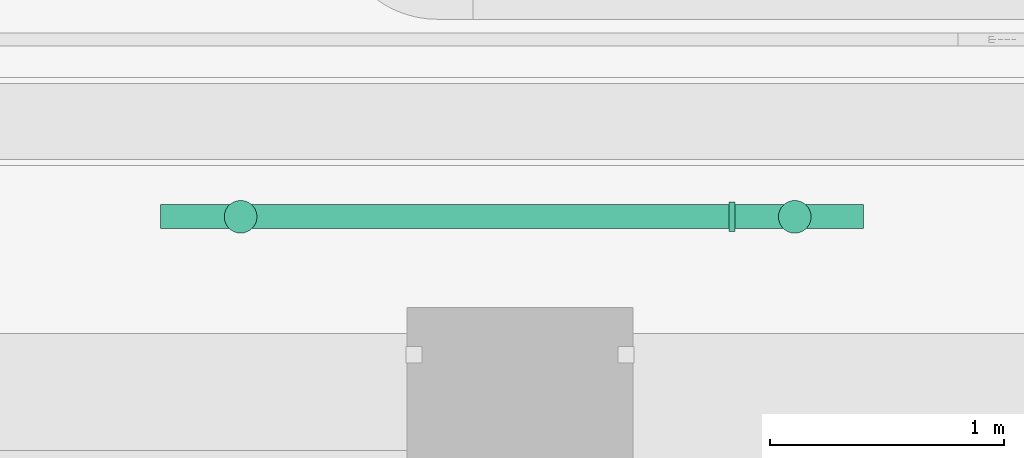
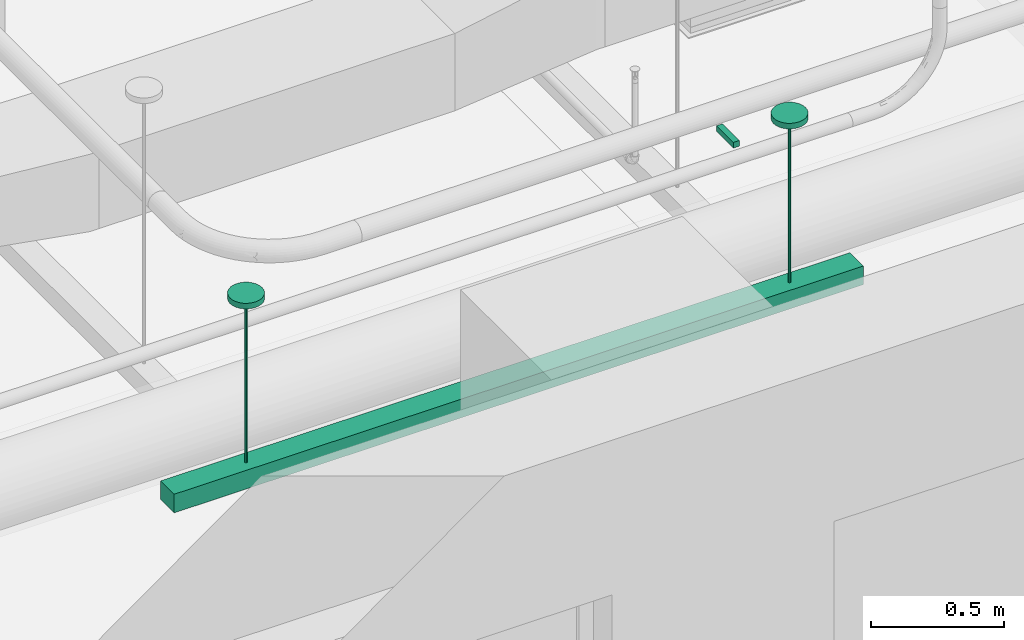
# One storey, part 102 of 108: 1 light fixture.
"""IFC4 building model written with IfcOpenShell, lengths in feet."""

from ifc_helpers import new_model, entity, si_unit, converted_unit, derived_unit, direction, frame, origin, place, context, subcontext, project, spatial, source, transform, mapped, material, type_object, type_shapes, element, save


model = new_model("IFC4")

# Units and contexts
model_context = context("Model", 3, precision=0.0001, world=origin(), true_north=direction((6.12303176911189e-17, 1.0)))
body_context = subcontext(model_context, "Body", "Model", "MODEL_VIEW")
ifc_project = project(units=[converted_unit("LENGTHUNIT", "FOOT", entity("IfcRatioMeasure", 0.3048), si_unit("LENGTHUNIT", "METRE"), dimensions=[1, 0, 0, 0, 0, 0, 0]), converted_unit("AREAUNIT", "SQUARE FOOT", entity("IfcRatioMeasure", 0.09290304), si_unit("AREAUNIT", "SQUARE_METRE"), dimensions=[2, 0, 0, 0, 0, 0, 0]), converted_unit("VOLUMEUNIT", "CUBIC FOOT", entity("IfcRatioMeasure", 0.028316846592), si_unit("VOLUMEUNIT", "CUBIC_METRE"), dimensions=[3, 0, 0, 0, 0, 0, 0]), converted_unit("PLANEANGLEUNIT", "DEGREE", entity("IfcRatioMeasure", 0.0174532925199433), si_unit("PLANEANGLEUNIT", "RADIAN"), dimensions=[0, 0, 0, 0, 0, 0, 0]), si_unit("MASSUNIT", "GRAM", prefix="KILO"), derived_unit("MASSDENSITYUNIT", [(si_unit("MASSUNIT", "GRAM", prefix="KILO"), 1), (si_unit("LENGTHUNIT", "METRE"), -3)]), si_unit("TIMEUNIT", "SECOND"), si_unit("FREQUENCYUNIT", "HERTZ"), si_unit("THERMODYNAMICTEMPERATUREUNIT", "DEGREE_CELSIUS"), derived_unit("THERMALTRANSMITTANCEUNIT", [(si_unit("MASSUNIT", "GRAM", prefix="KILO"), 1), (si_unit("THERMODYNAMICTEMPERATUREUNIT", "KELVIN"), -1), (si_unit("TIMEUNIT", "SECOND"), -3)]), derived_unit("VOLUMETRICFLOWRATEUNIT", [(si_unit("LENGTHUNIT", "METRE"), 3), (si_unit("TIMEUNIT", "SECOND"), -1)]), si_unit("ELECTRICCURRENTUNIT", "AMPERE"), si_unit("ELECTRICVOLTAGEUNIT", "VOLT"), si_unit("POWERUNIT", "WATT"), si_unit("FORCEUNIT", "NEWTON"), si_unit("ILLUMINANCEUNIT", "LUX"), si_unit("LUMINOUSFLUXUNIT", "LUMEN"), si_unit("LUMINOUSINTENSITYUNIT", "CANDELA"), derived_unit("USERDEFINED", [(si_unit("MASSUNIT", "GRAM", prefix="KILO"), -1), (si_unit("LENGTHUNIT", "METRE"), -2), (si_unit("TIMEUNIT", "SECOND"), 3), (si_unit("LUMINOUSFLUXUNIT", "LUMEN"), 1)]), derived_unit("LINEARVELOCITYUNIT", [(si_unit("LENGTHUNIT", "METRE"), 1), (si_unit("TIMEUNIT", "SECOND"), -1)]), si_unit("PRESSUREUNIT", "PASCAL"), derived_unit("USERDEFINED", [(si_unit("LENGTHUNIT", "METRE"), -2), (si_unit("MASSUNIT", "GRAM", prefix="KILO"), 1), (si_unit("TIMEUNIT", "SECOND"), -2)])], contexts=[model_context])

# Site, building, storey
site_placement = place(None, origin())
site = spatial("IfcSite", under=ifc_project, at=site_placement, Name="Default", CompositionType="ELEMENT")
building_placement = place(site_placement, origin())
building = spatial("IfcBuilding", under=site, at=building_placement, CompositionType="ELEMENT")
storey_placement = place(building_placement, frame((0.0, 0.0, 168.0)))
storey = spatial("IfcBuildingStorey", under=building, at=storey_placement, Name="Level 15", CompositionType="ELEMENT", Elevation=168.0)

# Light fixture
ifc_material = material(Name="Lighting Proxy", Category="System")
light_fixture_type = type_object("IfcLightFixtureType", Name="10", PredefinedType="NOTDEFINED", material=ifc_material)
cartesian_point_1 = entity("IfcCartesianPoint", [0.891666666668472, 0.234400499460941, 2.83292752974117])
vertex_point_1 = entity("IfcVertexPoint", cartesian_point_1)
cartesian_point_2 = entity("IfcCartesianPoint", [1.35000000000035, 0.23440049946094, 2.83292752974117])
vertex_point_2 = entity("IfcVertexPoint", cartesian_point_2)
cartesian_point_3 = entity("IfcCartesianPoint", [1.12083333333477, 0.23440049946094, 2.83292752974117])
ifc_direction_1 = entity("IfcDirection", [0.0, 0.0, -1.0])
ifc_direction_2 = entity("IfcDirection", [1.0, 0.0, 0.0])
edge_curve_1 = entity("IfcEdgeCurve", vertex_point_1, vertex_point_2, entity("IfcTrimmedCurve", entity("IfcCircle", entity("IfcAxis2Placement3D", cartesian_point_3, ifc_direction_1, ifc_direction_2), 0.22916666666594), [cartesian_point_1], [cartesian_point_2], True, "CARTESIAN"), True)
cartesian_point_4 = entity("IfcCartesianPoint", [1.35000000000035, 0.234400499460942, 2.7488633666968])
vertex_point_3 = entity("IfcVertexPoint", cartesian_point_4)
edge_curve_2 = entity("IfcEdgeCurve", vertex_point_2, vertex_point_3, entity("IfcTrimmedCurve", entity("IfcLine", cartesian_point_2, entity("IfcVector", ifc_direction_1, 1.0)), [cartesian_point_2], [cartesian_point_4], True, "CARTESIAN"), True)
cartesian_point_5 = entity("IfcCartesianPoint", [0.891666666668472, 0.234400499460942, 2.7488633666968])
vertex_point_4 = entity("IfcVertexPoint", cartesian_point_5)
cartesian_point_6 = entity("IfcCartesianPoint", [1.12083333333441, 0.234400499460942, 2.7488633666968])
ifc_direction_3 = entity("IfcDirection", [0.0, 0.0, 1.0])
edge_curve_3 = entity("IfcEdgeCurve", vertex_point_3, vertex_point_4, entity("IfcTrimmedCurve", entity("IfcCircle", entity("IfcAxis2Placement3D", cartesian_point_6, ifc_direction_3, ifc_direction_2), 0.22916666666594), [cartesian_point_4], [cartesian_point_5], True, "CARTESIAN"), True)
edge_curve_4 = entity("IfcEdgeCurve", vertex_point_4, vertex_point_1, entity("IfcTrimmedCurve", entity("IfcLine", cartesian_point_5, entity("IfcVector", ifc_direction_3, 1.0)), [cartesian_point_5], [cartesian_point_1], True, "CARTESIAN"), True)
cartesian_point_7 = entity("IfcCartesianPoint", [1.12083333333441, 0.234400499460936, 3.145427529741])
edge_curve_5 = entity("IfcEdgeCurve", vertex_point_2, vertex_point_1, entity("IfcTrimmedCurve", entity("IfcCircle", entity("IfcAxis2Placement3D", cartesian_point_3, ifc_direction_1, ifc_direction_2), 0.22916666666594), [cartesian_point_2], [cartesian_point_1], True, "CARTESIAN"), True)
edge_curve_6 = entity("IfcEdgeCurve", vertex_point_4, vertex_point_3, entity("IfcTrimmedCurve", entity("IfcCircle", entity("IfcAxis2Placement3D", cartesian_point_6, ifc_direction_3, ifc_direction_2), 0.22916666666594), [cartesian_point_5], [cartesian_point_4], True, "CARTESIAN"), True)
cartesian_point_8 = entity("IfcCartesianPoint", [1.14166666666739, 0.234400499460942, 2.7488633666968])
vertex_point_5 = entity("IfcVertexPoint", cartesian_point_8)
ifc_direction_4 = entity("IfcDirection", [-1.0, 0.0, 0.0])
edge_curve_7 = entity("IfcEdgeCurve", vertex_point_3, vertex_point_5, entity("IfcTrimmedCurve", entity("IfcLine", cartesian_point_4, entity("IfcVector", ifc_direction_4, 1.0)), [cartesian_point_4], [cartesian_point_8], True, "CARTESIAN"), True)
cartesian_point_9 = entity("IfcCartesianPoint", [1.10000000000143, 0.234400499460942, 2.7488633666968])
vertex_point_6 = entity("IfcVertexPoint", cartesian_point_9)
edge_curve_8 = entity("IfcEdgeCurve", vertex_point_5, vertex_point_6, entity("IfcTrimmedCurve", entity("IfcCircle", entity("IfcAxis2Placement3D", cartesian_point_6, ifc_direction_3, ifc_direction_2), 0.0208333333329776), [cartesian_point_8], [cartesian_point_9], True, "CARTESIAN"), True)
edge_curve_9 = entity("IfcEdgeCurve", vertex_point_6, vertex_point_4, entity("IfcTrimmedCurve", entity("IfcLine", cartesian_point_9, entity("IfcVector", ifc_direction_4, 1.0)), [cartesian_point_9], [cartesian_point_5], True, "CARTESIAN"), True)
edge_curve_10 = entity("IfcEdgeCurve", vertex_point_6, vertex_point_5, entity("IfcTrimmedCurve", entity("IfcCircle", entity("IfcAxis2Placement3D", cartesian_point_6, ifc_direction_3, ifc_direction_2), 0.0208333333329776), [cartesian_point_9], [cartesian_point_8], True, "CARTESIAN"), True)
cartesian_point_10 = entity("IfcCartesianPoint", [1.14166666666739, 0.234400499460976, 0.281250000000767])
vertex_point_7 = entity("IfcVertexPoint", cartesian_point_10)
edge_curve_11 = entity("IfcEdgeCurve", vertex_point_5, vertex_point_7, entity("IfcTrimmedCurve", entity("IfcLine", cartesian_point_8, entity("IfcVector", ifc_direction_1, 1.0)), [cartesian_point_8], [cartesian_point_10], True, "CARTESIAN"), True)
cartesian_point_11 = entity("IfcCartesianPoint", [1.10000000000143, 0.234400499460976, 0.281250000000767])
vertex_point_8 = entity("IfcVertexPoint", cartesian_point_11)
cartesian_point_12 = entity("IfcCartesianPoint", [1.12083333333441, 0.234400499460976, 0.281250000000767])
edge_curve_12 = entity("IfcEdgeCurve", vertex_point_7, vertex_point_8, entity("IfcTrimmedCurve", entity("IfcCircle", entity("IfcAxis2Placement3D", cartesian_point_12, ifc_direction_3, ifc_direction_2), 0.0208333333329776), [cartesian_point_10], [cartesian_point_11], True, "CARTESIAN"), True)
edge_curve_13 = entity("IfcEdgeCurve", vertex_point_8, vertex_point_6, entity("IfcTrimmedCurve", entity("IfcLine", cartesian_point_11, entity("IfcVector", ifc_direction_3, 1.0)), [cartesian_point_11], [cartesian_point_9], True, "CARTESIAN"), True)
edge_curve_14 = entity("IfcEdgeCurve", vertex_point_8, vertex_point_7, entity("IfcTrimmedCurve", entity("IfcCircle", entity("IfcAxis2Placement3D", cartesian_point_12, ifc_direction_3, ifc_direction_2), 0.0208333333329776), [cartesian_point_11], [cartesian_point_10], True, "CARTESIAN"), True)
vertex_point_9 = entity("IfcVertexPoint", cartesian_point_12)
edge_curve_15 = entity("IfcEdgeCurve", vertex_point_7, vertex_point_9, entity("IfcTrimmedCurve", entity("IfcLine", cartesian_point_10, entity("IfcVector", ifc_direction_4, 1.0)), [cartesian_point_10], [cartesian_point_12], True, "CARTESIAN"), True)
edge_curve_16 = entity("IfcEdgeCurve", vertex_point_9, vertex_point_8, entity("IfcTrimmedCurve", entity("IfcLine", cartesian_point_12, entity("IfcVector", ifc_direction_4, 1.0)), [cartesian_point_12], [cartesian_point_11], True, "CARTESIAN"), True)
vertex_point_10 = entity("IfcVertexPoint", cartesian_point_3)
edge_curve_17 = entity("IfcEdgeCurve", vertex_point_10, vertex_point_2, entity("IfcTrimmedCurve", entity("IfcLine", cartesian_point_3, entity("IfcVector", ifc_direction_2, 1.0)), [cartesian_point_3], [cartesian_point_2], True, "CARTESIAN"), True)
edge_curve_18 = entity("IfcEdgeCurve", vertex_point_1, vertex_point_10, entity("IfcTrimmedCurve", entity("IfcLine", cartesian_point_1, entity("IfcVector", ifc_direction_2, 1.0)), [cartesian_point_1], [cartesian_point_3], True, "CARTESIAN"), True)
cartesian_point_13 = entity("IfcCartesianPoint", [9.10833333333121, 0.234400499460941, 2.83292752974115])
vertex_point_11 = entity("IfcVertexPoint", cartesian_point_13)
cartesian_point_14 = entity("IfcCartesianPoint", [8.64999999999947, 0.23440049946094, 2.83292752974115])
vertex_point_12 = entity("IfcVertexPoint", cartesian_point_14)
cartesian_point_15 = entity("IfcCartesianPoint", [8.87916666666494, 0.23440049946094, 2.83292752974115])
ifc_direction_5 = entity("IfcDirection", [0.0, 0.0, 1.0])
ifc_direction_6 = entity("IfcDirection", [-1.0, 0.0, 0.0])
edge_curve_19 = entity("IfcEdgeCurve", vertex_point_11, vertex_point_12, entity("IfcTrimmedCurve", entity("IfcCircle", entity("IfcAxis2Placement3D", cartesian_point_15, ifc_direction_5, ifc_direction_6), 0.229166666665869), [cartesian_point_13], [cartesian_point_14], True, "CARTESIAN"), True)
vertex_point_13 = entity("IfcVertexPoint", cartesian_point_15)
ifc_direction_7 = entity("IfcDirection", [1.0, 0.0, 0.0])
edge_curve_20 = entity("IfcEdgeCurve", vertex_point_12, vertex_point_13, entity("IfcTrimmedCurve", entity("IfcLine", cartesian_point_14, entity("IfcVector", ifc_direction_7, 1.0)), [cartesian_point_14], [cartesian_point_15], True, "CARTESIAN"), True)
edge_curve_21 = entity("IfcEdgeCurve", vertex_point_13, vertex_point_11, entity("IfcTrimmedCurve", entity("IfcLine", cartesian_point_15, entity("IfcVector", ifc_direction_7, 1.0)), [cartesian_point_15], [cartesian_point_13], True, "CARTESIAN"), True)
edge_curve_22 = entity("IfcEdgeCurve", vertex_point_12, vertex_point_11, entity("IfcTrimmedCurve", entity("IfcCircle", entity("IfcAxis2Placement3D", cartesian_point_15, ifc_direction_5, ifc_direction_6), 0.229166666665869), [cartesian_point_14], [cartesian_point_13], True, "CARTESIAN"), True)
cartesian_point_16 = entity("IfcCartesianPoint", [9.10833333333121, 0.234400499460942, 2.74886336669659])
vertex_point_14 = entity("IfcVertexPoint", cartesian_point_16)
cartesian_point_17 = entity("IfcCartesianPoint", [8.64999999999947, 0.234400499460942, 2.74886336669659])
vertex_point_15 = entity("IfcVertexPoint", cartesian_point_17)
cartesian_point_18 = entity("IfcCartesianPoint", [8.87916666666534, 0.234400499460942, 2.74886336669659])
edge_curve_23 = entity("IfcEdgeCurve", vertex_point_14, vertex_point_15, entity("IfcTrimmedCurve", entity("IfcCircle", entity("IfcAxis2Placement3D", cartesian_point_18, ifc_direction_5, ifc_direction_6), 0.229166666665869), [cartesian_point_16], [cartesian_point_17], True, "CARTESIAN"), True)
edge_curve_24 = entity("IfcEdgeCurve", vertex_point_15, vertex_point_12, entity("IfcTrimmedCurve", entity("IfcLine", cartesian_point_17, entity("IfcVector", ifc_direction_5, 1.0)), [cartesian_point_17], [cartesian_point_14], True, "CARTESIAN"), True)
ifc_direction_8 = entity("IfcDirection", [0.0, 0.0, -1.0])
edge_curve_25 = entity("IfcEdgeCurve", vertex_point_11, vertex_point_14, entity("IfcTrimmedCurve", entity("IfcLine", cartesian_point_13, entity("IfcVector", ifc_direction_8, 1.0)), [cartesian_point_13], [cartesian_point_16], True, "CARTESIAN"), True)
cartesian_point_19 = entity("IfcCartesianPoint", [8.87916666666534, 0.234400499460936, 3.14542752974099])
edge_curve_26 = entity("IfcEdgeCurve", vertex_point_15, vertex_point_14, entity("IfcTrimmedCurve", entity("IfcCircle", entity("IfcAxis2Placement3D", cartesian_point_18, ifc_direction_5, ifc_direction_6), 0.229166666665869), [cartesian_point_17], [cartesian_point_16], True, "CARTESIAN"), True)
cartesian_point_20 = entity("IfcCartesianPoint", [8.89999999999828, 0.234400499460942, 2.74886336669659])
vertex_point_16 = entity("IfcVertexPoint", cartesian_point_20)
cartesian_point_21 = entity("IfcCartesianPoint", [8.85833333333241, 0.234400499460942, 2.74886336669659])
vertex_point_17 = entity("IfcVertexPoint", cartesian_point_21)
edge_curve_27 = entity("IfcEdgeCurve", vertex_point_16, vertex_point_17, entity("IfcTrimmedCurve", entity("IfcCircle", entity("IfcAxis2Placement3D", cartesian_point_18, ifc_direction_5, ifc_direction_6), 0.0208333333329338), [cartesian_point_20], [cartesian_point_21], True, "CARTESIAN"), True)
edge_curve_28 = entity("IfcEdgeCurve", vertex_point_17, vertex_point_15, entity("IfcTrimmedCurve", entity("IfcLine", cartesian_point_21, entity("IfcVector", ifc_direction_6, 1.0)), [cartesian_point_21], [cartesian_point_17], True, "CARTESIAN"), True)
edge_curve_29 = entity("IfcEdgeCurve", vertex_point_14, vertex_point_16, entity("IfcTrimmedCurve", entity("IfcLine", cartesian_point_16, entity("IfcVector", ifc_direction_6, 1.0)), [cartesian_point_16], [cartesian_point_20], True, "CARTESIAN"), True)
edge_curve_30 = entity("IfcEdgeCurve", vertex_point_17, vertex_point_16, entity("IfcTrimmedCurve", entity("IfcCircle", entity("IfcAxis2Placement3D", cartesian_point_18, ifc_direction_5, ifc_direction_6), 0.0208333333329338), [cartesian_point_21], [cartesian_point_20], True, "CARTESIAN"), True)
cartesian_point_22 = entity("IfcCartesianPoint", [8.89999999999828, 0.234400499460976, 0.281250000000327])
vertex_point_18 = entity("IfcVertexPoint", cartesian_point_22)
cartesian_point_23 = entity("IfcCartesianPoint", [8.85833333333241, 0.234400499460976, 0.281250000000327])
vertex_point_19 = entity("IfcVertexPoint", cartesian_point_23)
cartesian_point_24 = entity("IfcCartesianPoint", [8.87916666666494, 0.234400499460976, 0.281250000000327])
edge_curve_31 = entity("IfcEdgeCurve", vertex_point_18, vertex_point_19, entity("IfcTrimmedCurve", entity("IfcCircle", entity("IfcAxis2Placement3D", cartesian_point_24, ifc_direction_5, ifc_direction_6), 0.0208333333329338), [cartesian_point_22], [cartesian_point_23], True, "CARTESIAN"), True)
edge_curve_32 = entity("IfcEdgeCurve", vertex_point_19, vertex_point_17, entity("IfcTrimmedCurve", entity("IfcLine", cartesian_point_23, entity("IfcVector", ifc_direction_5, 1.0)), [cartesian_point_23], [cartesian_point_21], True, "CARTESIAN"), True)
edge_curve_33 = entity("IfcEdgeCurve", vertex_point_16, vertex_point_18, entity("IfcTrimmedCurve", entity("IfcLine", cartesian_point_20, entity("IfcVector", ifc_direction_8, 1.0)), [cartesian_point_20], [cartesian_point_22], True, "CARTESIAN"), True)
edge_curve_34 = entity("IfcEdgeCurve", vertex_point_19, vertex_point_18, entity("IfcTrimmedCurve", entity("IfcCircle", entity("IfcAxis2Placement3D", cartesian_point_24, ifc_direction_5, ifc_direction_6), 0.0208333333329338), [cartesian_point_23], [cartesian_point_22], True, "CARTESIAN"), True)
vertex_point_20 = entity("IfcVertexPoint", cartesian_point_24)
edge_curve_35 = entity("IfcEdgeCurve", vertex_point_20, vertex_point_19, entity("IfcTrimmedCurve", entity("IfcLine", cartesian_point_24, entity("IfcVector", ifc_direction_6, 1.0)), [cartesian_point_24], [cartesian_point_23], True, "CARTESIAN"), True)
edge_curve_36 = entity("IfcEdgeCurve", vertex_point_18, vertex_point_20, entity("IfcTrimmedCurve", entity("IfcLine", cartesian_point_22, entity("IfcVector", ifc_direction_6, 1.0)), [cartesian_point_22], [cartesian_point_24], True, "CARTESIAN"), True)
cartesian_point_25 = entity("IfcCartesianPoint", [8.04166666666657, 0.0260671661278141, 2.83292752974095])
vertex_point_21 = entity("IfcVertexPoint", cartesian_point_25)
cartesian_point_26 = entity("IfcCartesianPoint", [8.04166666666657, 0.442733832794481, 2.83292752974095])
vertex_point_22 = entity("IfcVertexPoint", cartesian_point_26)
ifc_direction_9 = entity("IfcDirection", [0.0, 1.0, 0.0])
edge_curve_37 = entity("IfcEdgeCurve", vertex_point_21, vertex_point_22, entity("IfcTrimmedCurve", entity("IfcLine", cartesian_point_25, entity("IfcVector", ifc_direction_9, 1.0)), [cartesian_point_25], [cartesian_point_26], True, "CARTESIAN"), True)
cartesian_point_27 = entity("IfcCartesianPoint", [7.95833333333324, 0.442733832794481, 2.83292752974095])
vertex_point_23 = entity("IfcVertexPoint", cartesian_point_27)
ifc_direction_10 = entity("IfcDirection", [-1.0, 0.0, 0.0])
edge_curve_38 = entity("IfcEdgeCurve", vertex_point_22, vertex_point_23, entity("IfcTrimmedCurve", entity("IfcLine", cartesian_point_26, entity("IfcVector", ifc_direction_10, 1.0)), [cartesian_point_26], [cartesian_point_27], True, "CARTESIAN"), True)
cartesian_point_28 = entity("IfcCartesianPoint", [7.95833333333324, 0.0260671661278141, 2.83292752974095])
vertex_point_24 = entity("IfcVertexPoint", cartesian_point_28)
ifc_direction_11 = entity("IfcDirection", [0.0, -1.0, 0.0])
edge_curve_39 = entity("IfcEdgeCurve", vertex_point_23, vertex_point_24, entity("IfcTrimmedCurve", entity("IfcLine", cartesian_point_27, entity("IfcVector", ifc_direction_11, 1.0)), [cartesian_point_27], [cartesian_point_28], True, "CARTESIAN"), True)
ifc_direction_12 = entity("IfcDirection", [1.0, 0.0, 0.0])
edge_curve_40 = entity("IfcEdgeCurve", vertex_point_24, vertex_point_21, entity("IfcTrimmedCurve", entity("IfcLine", cartesian_point_28, entity("IfcVector", ifc_direction_12, 1.0)), [cartesian_point_28], [cartesian_point_25], True, "CARTESIAN"), True)
ifc_direction_13 = entity("IfcDirection", [0.0, 0.0, 1.0])
cartesian_point_29 = entity("IfcCartesianPoint", [8.04166666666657, 0.0260671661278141, 2.74959419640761])
vertex_point_25 = entity("IfcVertexPoint", cartesian_point_29)
cartesian_point_30 = entity("IfcCartesianPoint", [7.95833333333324, 0.0260671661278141, 2.74959419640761])
vertex_point_26 = entity("IfcVertexPoint", cartesian_point_30)
edge_curve_41 = entity("IfcEdgeCurve", vertex_point_25, vertex_point_26, entity("IfcTrimmedCurve", entity("IfcLine", cartesian_point_29, entity("IfcVector", ifc_direction_10, 1.0)), [cartesian_point_29], [cartesian_point_30], True, "CARTESIAN"), True)
cartesian_point_31 = entity("IfcCartesianPoint", [7.95833333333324, 0.442733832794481, 2.74959419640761])
vertex_point_27 = entity("IfcVertexPoint", cartesian_point_31)
edge_curve_42 = entity("IfcEdgeCurve", vertex_point_26, vertex_point_27, entity("IfcTrimmedCurve", entity("IfcLine", cartesian_point_30, entity("IfcVector", ifc_direction_9, 1.0)), [cartesian_point_30], [cartesian_point_31], True, "CARTESIAN"), True)
cartesian_point_32 = entity("IfcCartesianPoint", [8.04166666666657, 0.442733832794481, 2.74959419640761])
vertex_point_28 = entity("IfcVertexPoint", cartesian_point_32)
edge_curve_43 = entity("IfcEdgeCurve", vertex_point_27, vertex_point_28, entity("IfcTrimmedCurve", entity("IfcLine", cartesian_point_31, entity("IfcVector", ifc_direction_12, 1.0)), [cartesian_point_31], [cartesian_point_32], True, "CARTESIAN"), True)
edge_curve_44 = entity("IfcEdgeCurve", vertex_point_28, vertex_point_25, entity("IfcTrimmedCurve", entity("IfcLine", cartesian_point_32, entity("IfcVector", ifc_direction_11, 1.0)), [cartesian_point_32], [cartesian_point_29], True, "CARTESIAN"), True)
ifc_direction_14 = entity("IfcDirection", [0.0, 0.0, -1.0])
edge_curve_45 = entity("IfcEdgeCurve", vertex_point_21, vertex_point_25, entity("IfcTrimmedCurve", entity("IfcLine", cartesian_point_25, entity("IfcVector", ifc_direction_14, 1.0)), [cartesian_point_25], [cartesian_point_29], True, "CARTESIAN"), True)
edge_curve_46 = entity("IfcEdgeCurve", vertex_point_28, vertex_point_22, entity("IfcTrimmedCurve", entity("IfcLine", cartesian_point_26, entity("IfcVector", ifc_direction_13, 1.0)), [cartesian_point_32], [cartesian_point_26], True, "CARTESIAN"), True)
edge_curve_47 = entity("IfcEdgeCurve", vertex_point_27, vertex_point_23, entity("IfcTrimmedCurve", entity("IfcLine", cartesian_point_27, entity("IfcVector", ifc_direction_13, 1.0)), [cartesian_point_31], [cartesian_point_27], True, "CARTESIAN"), True)
edge_curve_48 = entity("IfcEdgeCurve", vertex_point_26, vertex_point_24, entity("IfcTrimmedCurve", entity("IfcLine", cartesian_point_28, entity("IfcVector", ifc_direction_13, 1.0)), [cartesian_point_30], [cartesian_point_28], True, "CARTESIAN"), True)
cartesian_point_33 = entity("IfcCartesianPoint", [9.84059337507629, 0.406567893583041, 0.28125000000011])
vertex_point_29 = entity("IfcVertexPoint", cartesian_point_33)
cartesian_point_34 = entity("IfcCartesianPoint", [0.0, 0.406567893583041, 0.281250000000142])
vertex_point_30 = entity("IfcVertexPoint", cartesian_point_34)
ifc_direction_15 = entity("IfcDirection", [-1.0, 0.0, 0.0])
edge_curve_49 = entity("IfcEdgeCurve", vertex_point_29, vertex_point_30, entity("IfcTrimmedCurve", entity("IfcLine", cartesian_point_33, entity("IfcVector", ifc_direction_15, 1.0)), [cartesian_point_33], [cartesian_point_34], True, "CARTESIAN"), True)
cartesian_point_35 = entity("IfcCartesianPoint", [0.0, 0.0732345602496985, 0.281250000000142])
vertex_point_31 = entity("IfcVertexPoint", cartesian_point_35)
ifc_direction_16 = entity("IfcDirection", [0.0, -1.0, 0.0])
edge_curve_50 = entity("IfcEdgeCurve", vertex_point_30, vertex_point_31, entity("IfcTrimmedCurve", entity("IfcLine", cartesian_point_34, entity("IfcVector", ifc_direction_16, 1.0)), [cartesian_point_34], [cartesian_point_35], True, "CARTESIAN"), True)
cartesian_point_36 = entity("IfcCartesianPoint", [9.84059337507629, 0.0732345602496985, 0.28125000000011])
vertex_point_32 = entity("IfcVertexPoint", cartesian_point_36)
ifc_direction_17 = entity("IfcDirection", [1.0, 0.0, 0.0])
edge_curve_51 = entity("IfcEdgeCurve", vertex_point_31, vertex_point_32, entity("IfcTrimmedCurve", entity("IfcLine", cartesian_point_35, entity("IfcVector", ifc_direction_17, 1.0)), [cartesian_point_35], [cartesian_point_36], True, "CARTESIAN"), True)
ifc_direction_18 = entity("IfcDirection", [0.0, 1.0, 0.0])
edge_curve_52 = entity("IfcEdgeCurve", vertex_point_32, vertex_point_29, entity("IfcTrimmedCurve", entity("IfcLine", cartesian_point_36, entity("IfcVector", ifc_direction_18, 1.0)), [cartesian_point_36], [cartesian_point_33], True, "CARTESIAN"), True)
ifc_direction_19 = entity("IfcDirection", [0.0, 0.0, 1.0])
cartesian_point_37 = entity("IfcCartesianPoint", [9.84059337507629, 0.406567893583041, 0.0])
vertex_point_33 = entity("IfcVertexPoint", cartesian_point_37)
cartesian_point_38 = entity("IfcCartesianPoint", [9.84059337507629, 0.0732345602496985, 0.0])
vertex_point_34 = entity("IfcVertexPoint", cartesian_point_38)
edge_curve_53 = entity("IfcEdgeCurve", vertex_point_33, vertex_point_34, entity("IfcTrimmedCurve", entity("IfcLine", cartesian_point_37, entity("IfcVector", ifc_direction_16, 1.0)), [cartesian_point_37], [cartesian_point_38], True, "CARTESIAN"), True)
cartesian_point_39 = entity("IfcCartesianPoint", [0.0, 0.0732345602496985, 0.0])
vertex_point_35 = entity("IfcVertexPoint", cartesian_point_39)
edge_curve_54 = entity("IfcEdgeCurve", vertex_point_34, vertex_point_35, entity("IfcTrimmedCurve", entity("IfcLine", cartesian_point_38, entity("IfcVector", ifc_direction_15, 1.0)), [cartesian_point_38], [cartesian_point_39], True, "CARTESIAN"), True)
cartesian_point_40 = entity("IfcCartesianPoint", [0.0, 0.406567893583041, 0.0])
vertex_point_36 = entity("IfcVertexPoint", cartesian_point_40)
edge_curve_55 = entity("IfcEdgeCurve", vertex_point_35, vertex_point_36, entity("IfcTrimmedCurve", entity("IfcLine", cartesian_point_39, entity("IfcVector", ifc_direction_18, 1.0)), [cartesian_point_39], [cartesian_point_40], True, "CARTESIAN"), True)
edge_curve_56 = entity("IfcEdgeCurve", vertex_point_36, vertex_point_33, entity("IfcTrimmedCurve", entity("IfcLine", cartesian_point_40, entity("IfcVector", ifc_direction_17, 1.0)), [cartesian_point_40], [cartesian_point_37], True, "CARTESIAN"), True)
ifc_direction_20 = entity("IfcDirection", [0.0, 0.0, -1.0])
edge_curve_57 = entity("IfcEdgeCurve", vertex_point_29, vertex_point_33, entity("IfcTrimmedCurve", entity("IfcLine", cartesian_point_33, entity("IfcVector", ifc_direction_20, 1.0)), [cartesian_point_33], [cartesian_point_37], True, "CARTESIAN"), True)
edge_curve_58 = entity("IfcEdgeCurve", vertex_point_36, vertex_point_30, entity("IfcTrimmedCurve", entity("IfcLine", cartesian_point_34, entity("IfcVector", ifc_direction_19, 1.0)), [cartesian_point_40], [cartesian_point_34], True, "CARTESIAN"), True)
edge_curve_59 = entity("IfcEdgeCurve", vertex_point_31, vertex_point_35, entity("IfcTrimmedCurve", entity("IfcLine", cartesian_point_35, entity("IfcVector", ifc_direction_20, 1.0)), [cartesian_point_35], [cartesian_point_39], True, "CARTESIAN"), True)
edge_curve_60 = entity("IfcEdgeCurve", vertex_point_34, vertex_point_32, entity("IfcTrimmedCurve", entity("IfcLine", cartesian_point_36, entity("IfcVector", ifc_direction_19, 1.0)), [cartesian_point_38], [cartesian_point_36], True, "CARTESIAN"), True)
shared_shape = source(origin(), body_context, "Body", "AdvancedBrep", [
    entity("IfcAdvancedBrep", entity("IfcClosedShell", [entity("IfcAdvancedFace", [entity("IfcFaceOuterBound", entity("IfcEdgeLoop", [entity("IfcOrientedEdge", None, None, edge_curve_1, True), entity("IfcOrientedEdge", None, None, edge_curve_2, True), entity("IfcOrientedEdge", None, None, edge_curve_3, True), entity("IfcOrientedEdge", None, None, edge_curve_4, True)]), True)], entity("IfcCylindricalSurface", entity("IfcAxis2Placement3D", cartesian_point_7, ifc_direction_3, ifc_direction_2), 0.22916666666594), True), entity("IfcAdvancedFace", [entity("IfcFaceOuterBound", entity("IfcEdgeLoop", [entity("IfcOrientedEdge", None, None, edge_curve_5, True), entity("IfcOrientedEdge", None, None, edge_curve_4, False), entity("IfcOrientedEdge", None, None, edge_curve_6, True), entity("IfcOrientedEdge", None, None, edge_curve_2, False)]), True)], entity("IfcCylindricalSurface", entity("IfcAxis2Placement3D", cartesian_point_7, ifc_direction_3, ifc_direction_2), 0.22916666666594), True), entity("IfcAdvancedFace", [entity("IfcFaceOuterBound", entity("IfcEdgeLoop", [entity("IfcOrientedEdge", None, None, edge_curve_3, False), entity("IfcOrientedEdge", None, None, edge_curve_7, True), entity("IfcOrientedEdge", None, None, edge_curve_8, True), entity("IfcOrientedEdge", None, None, edge_curve_9, True)]), True)], entity("IfcPlane", entity("IfcAxis2Placement3D", cartesian_point_6, ifc_direction_1, ifc_direction_2)), True), entity("IfcAdvancedFace", [entity("IfcFaceOuterBound", entity("IfcEdgeLoop", [entity("IfcOrientedEdge", None, None, edge_curve_6, False), entity("IfcOrientedEdge", None, None, edge_curve_9, False), entity("IfcOrientedEdge", None, None, edge_curve_10, True), entity("IfcOrientedEdge", None, None, edge_curve_7, False)]), True)], entity("IfcPlane", entity("IfcAxis2Placement3D", cartesian_point_6, ifc_direction_1, ifc_direction_2)), True), entity("IfcAdvancedFace", [entity("IfcFaceOuterBound", entity("IfcEdgeLoop", [entity("IfcOrientedEdge", None, None, edge_curve_8, False), entity("IfcOrientedEdge", None, None, edge_curve_11, True), entity("IfcOrientedEdge", None, None, edge_curve_12, True), entity("IfcOrientedEdge", None, None, edge_curve_13, True)]), True)], entity("IfcCylindricalSurface", entity("IfcAxis2Placement3D", cartesian_point_7, ifc_direction_3, ifc_direction_2), 0.0208333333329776), True), entity("IfcAdvancedFace", [entity("IfcFaceOuterBound", entity("IfcEdgeLoop", [entity("IfcOrientedEdge", None, None, edge_curve_10, False), entity("IfcOrientedEdge", None, None, edge_curve_13, False), entity("IfcOrientedEdge", None, None, edge_curve_14, True), entity("IfcOrientedEdge", None, None, edge_curve_11, False)]), True)], entity("IfcCylindricalSurface", entity("IfcAxis2Placement3D", cartesian_point_7, ifc_direction_3, ifc_direction_2), 0.0208333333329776), True), entity("IfcAdvancedFace", [entity("IfcFaceOuterBound", entity("IfcEdgeLoop", [entity("IfcOrientedEdge", None, None, edge_curve_12, False), entity("IfcOrientedEdge", None, None, edge_curve_15, True), entity("IfcOrientedEdge", None, None, edge_curve_16, True)]), True)], entity("IfcPlane", entity("IfcAxis2Placement3D", cartesian_point_12, ifc_direction_1, ifc_direction_2)), True), entity("IfcAdvancedFace", [entity("IfcFaceOuterBound", entity("IfcEdgeLoop", [entity("IfcOrientedEdge", None, None, edge_curve_14, False), entity("IfcOrientedEdge", None, None, edge_curve_16, False), entity("IfcOrientedEdge", None, None, edge_curve_15, False)]), True)], entity("IfcPlane", entity("IfcAxis2Placement3D", cartesian_point_12, ifc_direction_1, ifc_direction_2)), True), entity("IfcAdvancedFace", [entity("IfcFaceOuterBound", entity("IfcEdgeLoop", [entity("IfcOrientedEdge", None, None, edge_curve_17, True), entity("IfcOrientedEdge", None, None, edge_curve_1, False), entity("IfcOrientedEdge", None, None, edge_curve_18, True)]), True)], entity("IfcPlane", entity("IfcAxis2Placement3D", cartesian_point_3, ifc_direction_3, ifc_direction_2)), True), entity("IfcAdvancedFace", [entity("IfcFaceOuterBound", entity("IfcEdgeLoop", [entity("IfcOrientedEdge", None, None, edge_curve_18, False), entity("IfcOrientedEdge", None, None, edge_curve_5, False), entity("IfcOrientedEdge", None, None, edge_curve_17, False)]), True)], entity("IfcPlane", entity("IfcAxis2Placement3D", cartesian_point_3, ifc_direction_3, ifc_direction_2)), True)])),
    entity("IfcAdvancedBrep", entity("IfcClosedShell", [entity("IfcAdvancedFace", [entity("IfcFaceOuterBound", entity("IfcEdgeLoop", [entity("IfcOrientedEdge", None, None, edge_curve_19, True), entity("IfcOrientedEdge", None, None, edge_curve_20, True), entity("IfcOrientedEdge", None, None, edge_curve_21, True)]), True)], entity("IfcPlane", entity("IfcAxis2Placement3D", cartesian_point_15, ifc_direction_5, ifc_direction_6)), True), entity("IfcAdvancedFace", [entity("IfcFaceOuterBound", entity("IfcEdgeLoop", [entity("IfcOrientedEdge", None, None, edge_curve_22, True), entity("IfcOrientedEdge", None, None, edge_curve_21, False), entity("IfcOrientedEdge", None, None, edge_curve_20, False)]), True)], entity("IfcPlane", entity("IfcAxis2Placement3D", cartesian_point_15, ifc_direction_5, ifc_direction_6)), True), entity("IfcAdvancedFace", [entity("IfcFaceOuterBound", entity("IfcEdgeLoop", [entity("IfcOrientedEdge", None, None, edge_curve_23, True), entity("IfcOrientedEdge", None, None, edge_curve_24, True), entity("IfcOrientedEdge", None, None, edge_curve_19, False), entity("IfcOrientedEdge", None, None, edge_curve_25, True)]), True)], entity("IfcCylindricalSurface", entity("IfcAxis2Placement3D", cartesian_point_19, ifc_direction_8, ifc_direction_6), 0.229166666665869), True), entity("IfcAdvancedFace", [entity("IfcFaceOuterBound", entity("IfcEdgeLoop", [entity("IfcOrientedEdge", None, None, edge_curve_26, True), entity("IfcOrientedEdge", None, None, edge_curve_25, False), entity("IfcOrientedEdge", None, None, edge_curve_22, False), entity("IfcOrientedEdge", None, None, edge_curve_24, False)]), True)], entity("IfcCylindricalSurface", entity("IfcAxis2Placement3D", cartesian_point_19, ifc_direction_8, ifc_direction_6), 0.229166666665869), True), entity("IfcAdvancedFace", [entity("IfcFaceOuterBound", entity("IfcEdgeLoop", [entity("IfcOrientedEdge", None, None, edge_curve_27, True), entity("IfcOrientedEdge", None, None, edge_curve_28, True), entity("IfcOrientedEdge", None, None, edge_curve_23, False), entity("IfcOrientedEdge", None, None, edge_curve_29, True)]), True)], entity("IfcPlane", entity("IfcAxis2Placement3D", cartesian_point_18, ifc_direction_8, ifc_direction_6)), True), entity("IfcAdvancedFace", [entity("IfcFaceOuterBound", entity("IfcEdgeLoop", [entity("IfcOrientedEdge", None, None, edge_curve_30, True), entity("IfcOrientedEdge", None, None, edge_curve_29, False), entity("IfcOrientedEdge", None, None, edge_curve_26, False), entity("IfcOrientedEdge", None, None, edge_curve_28, False)]), True)], entity("IfcPlane", entity("IfcAxis2Placement3D", cartesian_point_18, ifc_direction_8, ifc_direction_6)), True), entity("IfcAdvancedFace", [entity("IfcFaceOuterBound", entity("IfcEdgeLoop", [entity("IfcOrientedEdge", None, None, edge_curve_31, True), entity("IfcOrientedEdge", None, None, edge_curve_32, True), entity("IfcOrientedEdge", None, None, edge_curve_27, False), entity("IfcOrientedEdge", None, None, edge_curve_33, True)]), True)], entity("IfcCylindricalSurface", entity("IfcAxis2Placement3D", cartesian_point_19, ifc_direction_8, ifc_direction_6), 0.0208333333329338), True), entity("IfcAdvancedFace", [entity("IfcFaceOuterBound", entity("IfcEdgeLoop", [entity("IfcOrientedEdge", None, None, edge_curve_34, True), entity("IfcOrientedEdge", None, None, edge_curve_33, False), entity("IfcOrientedEdge", None, None, edge_curve_30, False), entity("IfcOrientedEdge", None, None, edge_curve_32, False)]), True)], entity("IfcCylindricalSurface", entity("IfcAxis2Placement3D", cartesian_point_19, ifc_direction_8, ifc_direction_6), 0.0208333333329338), True), entity("IfcAdvancedFace", [entity("IfcFaceOuterBound", entity("IfcEdgeLoop", [entity("IfcOrientedEdge", None, None, edge_curve_35, True), entity("IfcOrientedEdge", None, None, edge_curve_31, False), entity("IfcOrientedEdge", None, None, edge_curve_36, True)]), True)], entity("IfcPlane", entity("IfcAxis2Placement3D", cartesian_point_24, ifc_direction_8, ifc_direction_6)), True), entity("IfcAdvancedFace", [entity("IfcFaceOuterBound", entity("IfcEdgeLoop", [entity("IfcOrientedEdge", None, None, edge_curve_36, False), entity("IfcOrientedEdge", None, None, edge_curve_34, False), entity("IfcOrientedEdge", None, None, edge_curve_35, False)]), True)], entity("IfcPlane", entity("IfcAxis2Placement3D", cartesian_point_24, ifc_direction_8, ifc_direction_6)), True)])),
    entity("IfcAdvancedBrep", entity("IfcClosedShell", [entity("IfcAdvancedFace", [entity("IfcFaceOuterBound", entity("IfcEdgeLoop", [entity("IfcOrientedEdge", None, None, edge_curve_37, True), entity("IfcOrientedEdge", None, None, edge_curve_38, True), entity("IfcOrientedEdge", None, None, edge_curve_39, True), entity("IfcOrientedEdge", None, None, edge_curve_40, True)]), True)], entity("IfcPlane", entity("IfcAxis2Placement3D", cartesian_point_25, ifc_direction_13, ifc_direction_9)), True), entity("IfcAdvancedFace", [entity("IfcFaceOuterBound", entity("IfcEdgeLoop", [entity("IfcOrientedEdge", None, None, edge_curve_41, True), entity("IfcOrientedEdge", None, None, edge_curve_42, True), entity("IfcOrientedEdge", None, None, edge_curve_43, True), entity("IfcOrientedEdge", None, None, edge_curve_44, True)]), True)], entity("IfcPlane", entity("IfcAxis2Placement3D", cartesian_point_29, ifc_direction_14, ifc_direction_11)), True), entity("IfcAdvancedFace", [entity("IfcFaceOuterBound", entity("IfcEdgeLoop", [entity("IfcOrientedEdge", None, None, edge_curve_37, False), entity("IfcOrientedEdge", None, None, edge_curve_45, True), entity("IfcOrientedEdge", None, None, edge_curve_44, False), entity("IfcOrientedEdge", None, None, edge_curve_46, True)]), True)], entity("IfcPlane", entity("IfcAxis2Placement3D", cartesian_point_25, ifc_direction_12, ifc_direction_14)), True), entity("IfcAdvancedFace", [entity("IfcFaceOuterBound", entity("IfcEdgeLoop", [entity("IfcOrientedEdge", None, None, edge_curve_38, False), entity("IfcOrientedEdge", None, None, edge_curve_46, False), entity("IfcOrientedEdge", None, None, edge_curve_43, False), entity("IfcOrientedEdge", None, None, edge_curve_47, True)]), True)], entity("IfcPlane", entity("IfcAxis2Placement3D", cartesian_point_26, ifc_direction_9, ifc_direction_14)), True), entity("IfcAdvancedFace", [entity("IfcFaceOuterBound", entity("IfcEdgeLoop", [entity("IfcOrientedEdge", None, None, edge_curve_39, False), entity("IfcOrientedEdge", None, None, edge_curve_47, False), entity("IfcOrientedEdge", None, None, edge_curve_42, False), entity("IfcOrientedEdge", None, None, edge_curve_48, True)]), True)], entity("IfcPlane", entity("IfcAxis2Placement3D", cartesian_point_27, ifc_direction_10, ifc_direction_14)), True), entity("IfcAdvancedFace", [entity("IfcFaceOuterBound", entity("IfcEdgeLoop", [entity("IfcOrientedEdge", None, None, edge_curve_40, False), entity("IfcOrientedEdge", None, None, edge_curve_48, False), entity("IfcOrientedEdge", None, None, edge_curve_41, False), entity("IfcOrientedEdge", None, None, edge_curve_45, False)]), True)], entity("IfcPlane", entity("IfcAxis2Placement3D", cartesian_point_28, ifc_direction_11, ifc_direction_14)), True)])),
    entity("IfcAdvancedBrep", entity("IfcClosedShell", [entity("IfcAdvancedFace", [entity("IfcFaceOuterBound", entity("IfcEdgeLoop", [entity("IfcOrientedEdge", None, None, edge_curve_49, True), entity("IfcOrientedEdge", None, None, edge_curve_50, True), entity("IfcOrientedEdge", None, None, edge_curve_51, True), entity("IfcOrientedEdge", None, None, edge_curve_52, True)]), True)], entity("IfcPlane", entity("IfcAxis2Placement3D", cartesian_point_34, ifc_direction_19, ifc_direction_15)), True), entity("IfcAdvancedFace", [entity("IfcFaceOuterBound", entity("IfcEdgeLoop", [entity("IfcOrientedEdge", None, None, edge_curve_53, True), entity("IfcOrientedEdge", None, None, edge_curve_54, True), entity("IfcOrientedEdge", None, None, edge_curve_55, True), entity("IfcOrientedEdge", None, None, edge_curve_56, True)]), True)], entity("IfcPlane", entity("IfcAxis2Placement3D", cartesian_point_40, ifc_direction_20, ifc_direction_17)), True), entity("IfcAdvancedFace", [entity("IfcFaceOuterBound", entity("IfcEdgeLoop", [entity("IfcOrientedEdge", None, None, edge_curve_49, False), entity("IfcOrientedEdge", None, None, edge_curve_57, True), entity("IfcOrientedEdge", None, None, edge_curve_56, False), entity("IfcOrientedEdge", None, None, edge_curve_58, True)]), True)], entity("IfcPlane", entity("IfcAxis2Placement3D", cartesian_point_33, ifc_direction_18, ifc_direction_20)), True), entity("IfcAdvancedFace", [entity("IfcFaceOuterBound", entity("IfcEdgeLoop", [entity("IfcOrientedEdge", None, None, edge_curve_51, False), entity("IfcOrientedEdge", None, None, edge_curve_59, True), entity("IfcOrientedEdge", None, None, edge_curve_54, False), entity("IfcOrientedEdge", None, None, edge_curve_60, True)]), True)], entity("IfcPlane", entity("IfcAxis2Placement3D", cartesian_point_35, ifc_direction_16, ifc_direction_20)), True), entity("IfcAdvancedFace", [entity("IfcFaceOuterBound", entity("IfcEdgeLoop", [entity("IfcOrientedEdge", None, None, edge_curve_50, False), entity("IfcOrientedEdge", None, None, edge_curve_58, False), entity("IfcOrientedEdge", None, None, edge_curve_55, False), entity("IfcOrientedEdge", None, None, edge_curve_59, False)]), True)], entity("IfcPlane", entity("IfcAxis2Placement3D", cartesian_point_34, ifc_direction_15, ifc_direction_20)), True), entity("IfcAdvancedFace", [entity("IfcFaceOuterBound", entity("IfcEdgeLoop", [entity("IfcOrientedEdge", None, None, edge_curve_52, False), entity("IfcOrientedEdge", None, None, edge_curve_60, False), entity("IfcOrientedEdge", None, None, edge_curve_53, False), entity("IfcOrientedEdge", None, None, edge_curve_57, False)]), True)], entity("IfcPlane", entity("IfcAxis2Placement3D", cartesian_point_36, ifc_direction_17, ifc_direction_20)), True)])),
])
type_shapes(light_fixture_type, [shared_shape])
light_fixture_placement = place(storey_placement, frame((-34.74619917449, -18.3177548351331, 9.25040580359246)))
element("IfcLightFixture", 1, at=light_fixture_placement, inside=storey, type_object=light_fixture_type, material=ifc_material, Name="Linear:10", ObjectType="Linear:10", PredefinedType="NOTDEFINED", context=body_context, shape_type="MappedRepresentation", body=[
    mapped(shared_shape, transform((0.0, 0.0, 0.0), scale=1.0)),
])

save(model, "model.ifc")
